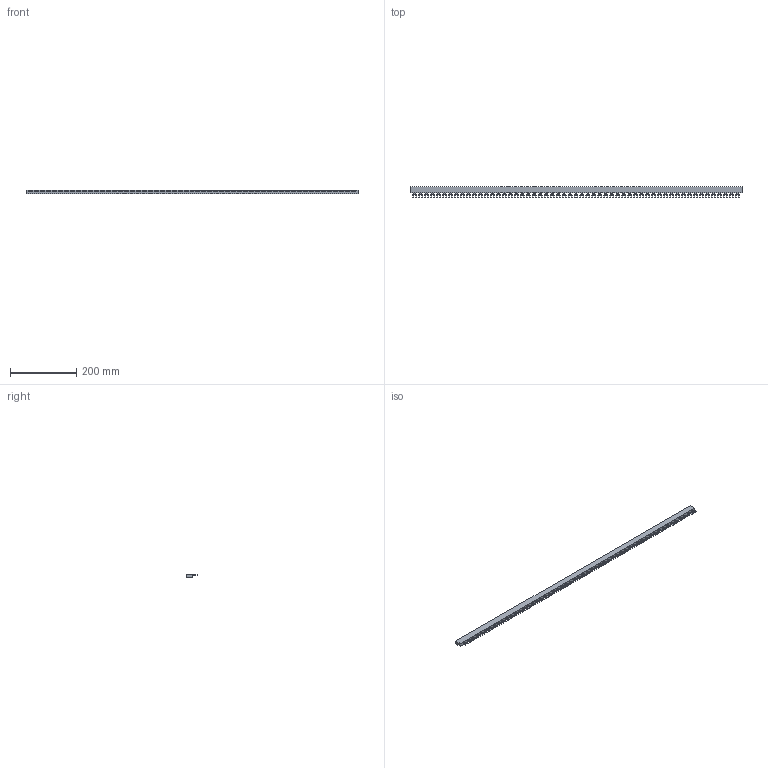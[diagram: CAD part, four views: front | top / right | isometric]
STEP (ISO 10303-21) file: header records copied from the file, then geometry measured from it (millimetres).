
FILE_DESCRIPTION (( 'STEP AP214' ), '1' );
FILE_NAME ('Øèíà 2P FORK 1000.STEP', '2024-03-07T06:33:48', ( '' ), ( '' ), 'SwSTEP 2.0', 'SolidWorks 2018', '' );
FILE_SCHEMA (( 'AUTOMOTIVE_DESIGN' ));
Length unit declared in the file: millimetre
Products named in the file (1): 嵙縺 2P FORK 1000
Bounding box: 1000 x 32.5 x 10.5 mm (x, y, z)
Volume: 206892 mm3; surface area: 72633 mm2
Topology: 1 solids, 1 shells, 721 faces, 1992 edges, 1328 vertices
Faces by surface type: plane 556, cylinder 165
Entity records: 22850 total; most frequent: CARTESIAN_POINT 4042, ORIENTED_EDGE 3984, DIRECTION 3766, EDGE_CURVE 1992, VECTOR 1662, LINE 1662, VERTEX_POINT 1328, AXIS2_PLACEMENT_3D 1052
